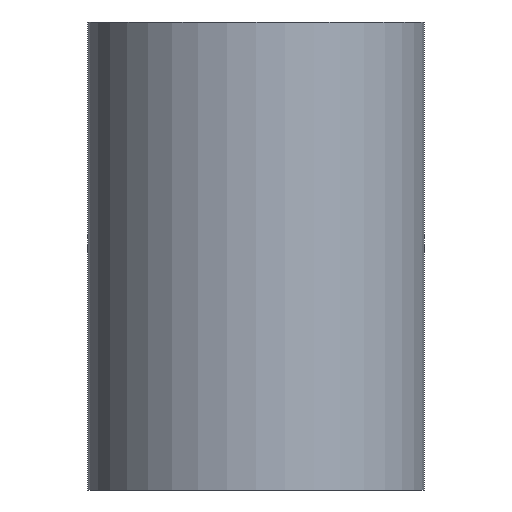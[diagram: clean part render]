
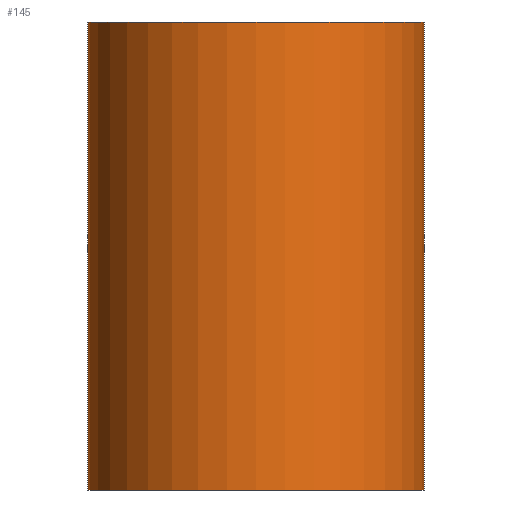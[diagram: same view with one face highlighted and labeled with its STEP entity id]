
A CAD part, front view. The second image highlights one B-rep face of the part: STEP entity #145.
In plain terms, the highlighted cylindrical face has radius 45 mm (diameter 90 mm), a full revolution.
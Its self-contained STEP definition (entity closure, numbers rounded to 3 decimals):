
#32=LINE('',#318,#36);
#36=VECTOR('',#269,45.);
#40=CYLINDRICAL_SURFACE('',#229,45.);
#49=FACE_OUTER_BOUND('',#58,.T.);
#58=EDGE_LOOP('',(#114,#115,#116,#117,#118,#119));
#67=CIRCLE('',#224,45.);
#68=CIRCLE('',#225,45.);
#71=CIRCLE('',#230,45.);
#72=CIRCLE('',#231,45.);
#79=VERTEX_POINT('',#303);
#80=VERTEX_POINT('',#304);
#83=VERTEX_POINT('',#314);
#84=VERTEX_POINT('',#315);
#91=EDGE_CURVE('',#79,#80,#67,.T.);
#92=EDGE_CURVE('',#80,#79,#68,.T.);
#96=EDGE_CURVE('',#83,#84,#71,.T.);
#97=EDGE_CURVE('',#84,#83,#72,.T.);
#98=EDGE_CURVE('',#84,#80,#32,.T.);
#114=ORIENTED_EDGE('',*,*,#96,.F.);
#115=ORIENTED_EDGE('',*,*,#97,.F.);
#116=ORIENTED_EDGE('',*,*,#98,.T.);
#117=ORIENTED_EDGE('',*,*,#91,.F.);
#118=ORIENTED_EDGE('',*,*,#92,.F.);
#119=ORIENTED_EDGE('',*,*,#98,.F.);
#145=ADVANCED_FACE('',(#49),#40,.T.);
#224=AXIS2_PLACEMENT_3D('',#305,#252,#253);
#225=AXIS2_PLACEMENT_3D('',#306,#254,#255);
#229=AXIS2_PLACEMENT_3D('',#313,#263,#264);
#230=AXIS2_PLACEMENT_3D('',#316,#265,#266);
#231=AXIS2_PLACEMENT_3D('',#317,#267,#268);
#252=DIRECTION('center_axis',(0.,0.,-1.));
#253=DIRECTION('ref_axis',(1.,0.,0.));
#254=DIRECTION('center_axis',(0.,0.,-1.));
#255=DIRECTION('ref_axis',(1.,0.,0.));
#263=DIRECTION('center_axis',(0.,0.,1.));
#264=DIRECTION('ref_axis',(1.,0.,0.));
#265=DIRECTION('center_axis',(0.,0.,1.));
#266=DIRECTION('ref_axis',(1.,0.,0.));
#267=DIRECTION('center_axis',(0.,0.,1.));
#268=DIRECTION('ref_axis',(1.,0.,0.));
#269=DIRECTION('',(0.,0.,-1.));
#303=CARTESIAN_POINT('',(45.,0.,-62.5));
#304=CARTESIAN_POINT('',(-45.,0.,-62.5));
#305=CARTESIAN_POINT('Origin',(0.,0.,-62.5));
#306=CARTESIAN_POINT('Origin',(0.,0.,-62.5));
#313=CARTESIAN_POINT('Origin',(0.,0.,0.));
#314=CARTESIAN_POINT('',(45.,0.,62.5));
#315=CARTESIAN_POINT('',(-45.,0.,62.5));
#316=CARTESIAN_POINT('Origin',(0.,0.,62.5));
#317=CARTESIAN_POINT('Origin',(0.,0.,62.5));
#318=CARTESIAN_POINT('',(-45.,0.,0.));
